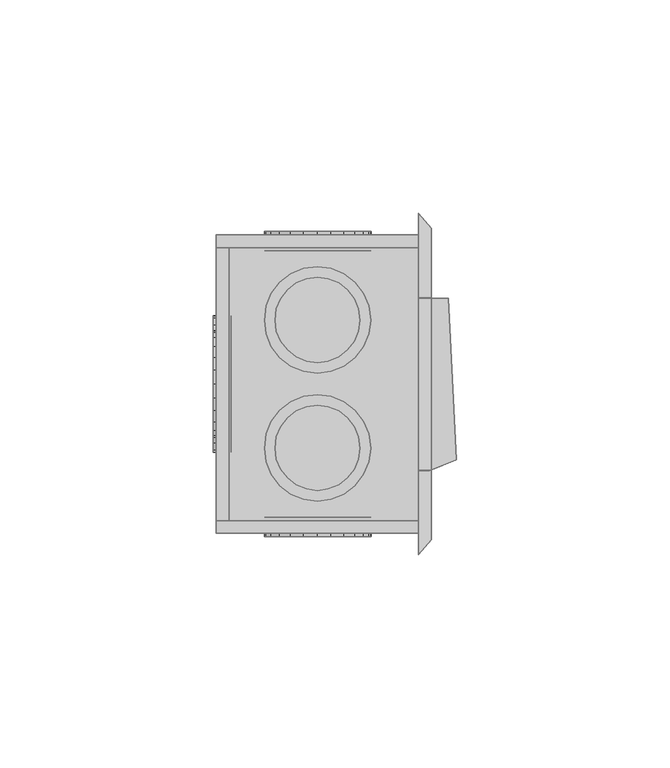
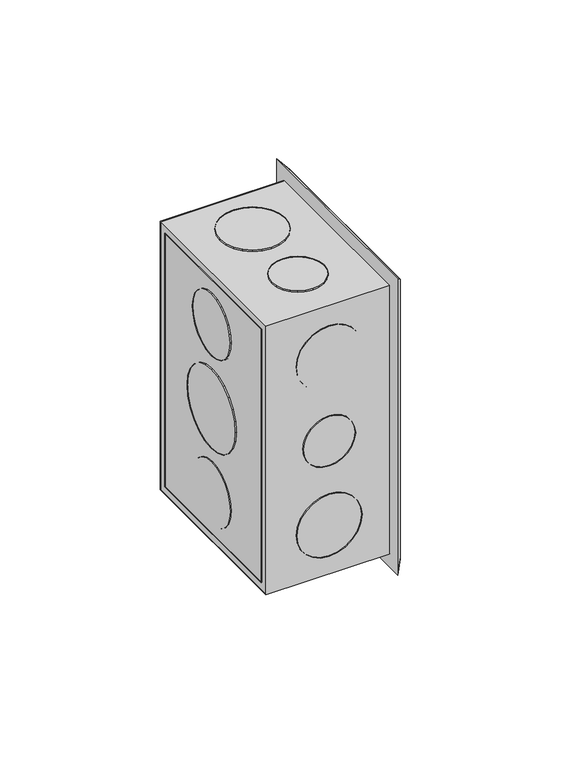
"""IFC4 building model written with IfcOpenShell, lengths in millimetres: proxy geometry,  211125 :  211125."""

from ifc_helpers import new_model, si_unit, origin, place, context, project, spatial, triangles, source, transform, mapped, element, save


def generic_models_154e31d0(model_context):
    return source(origin(), model_context, "Body", "Tessellation", [
        triangles([(19003.4005188, 12791.7994354, 1254.3000378), (19003.4005188, 12788.7996185, 1148.7000154), (19003.4005188, 12791.7994354, 1145.6999805), (19003.4005188, 12788.7996185, 1251.2999302), (19003.4005188, 12721.8002197, 1254.3000378), (19003.4005188, 12724.8000366, 1251.2999302), (19003.4005188, 12721.8002197, 1145.6999805), (19003.4005188, 12724.8000366, 1148.7000154), (18955.8999298, 12788.7996185, 1251.2999302), (18955.8999298, 12788.7996185, 1148.7000154), (18955.8999298, 12721.8002197, 1254.3000378), (18955.8999298, 12721.8002197, 1145.6999805), (18955.8999298, 12724.8000366, 1251.2999302), (18955.8999298, 12791.7994354, 1145.6999805), (18955.8999298, 12724.8000366, 1148.7000154), (18955.8999298, 12791.7994354, 1254.3000378), (18958.8997467, 12788.7996185, 1251.2999302), (18958.8997467, 12724.8000366, 1148.7000154), (18958.8997467, 12788.7996185, 1148.7000154), (18958.8997467, 12724.8000366, 1251.2999302), (18959.3997162, 12770.6995605, 1191.9999887), (18959.3997162, 12764.7999207, 1186.0999855), (18959.3997162, 12768.0997192, 1188.6999722), (18959.3997162, 12772.2994629, 1195.8999687), (18959.3997162, 12761.0001526, 1184.5000105), (18959.3997162, 12772.7994324, 1200.0000092), (18959.3997162, 12756.8004089, 1183.9999683), (18959.3997162, 12772.2994629, 1204.0999769), (18959.3997162, 12752.6994965, 1184.5000105), (18959.3997162, 12770.6995605, 1208.0000296), (18959.3997162, 12748.7997345, 1186.0999855), (18959.3997162, 12768.0997192, 1211.2999735), (18959.3997162, 12745.4999359, 1188.6999722), (18959.3997162, 12764.7999207, 1213.9000328), (18959.3997162, 12743.0000885, 1191.9999887), (18959.3997162, 12761.0001526, 1215.5000078), (18959.3997162, 12741.4001862, 1195.8999687), (18959.3997162, 12756.8004089, 1215.9999773), (18959.3997162, 12740.8002228, 1200.0000092), (18959.3997162, 12752.6994965, 1215.5000078), (18959.3997162, 12741.4001862, 1204.0999769), (18959.3997162, 12748.7997345, 1213.9000328), (18959.3997162, 12743.0000885, 1208.0000296), (18959.3997162, 12745.4999359, 1211.2999735), (18955.1999725, 12752.6994965, 1184.5000105), (18955.1999725, 12756.8004089, 1183.9999683), (18955.1999725, 12761.0001526, 1184.5000105), (18955.1999725, 12764.7999207, 1186.0999855), (18955.1999725, 12768.0997192, 1188.6999722), (18955.1999725, 12770.6995605, 1191.9999887), (18955.1999725, 12772.2994629, 1195.8999687), (18955.1999725, 12772.7994324, 1200.0000092), (18955.1999725, 12772.2994629, 1204.0999769), (18955.1999725, 12770.6995605, 1208.0000296), (18955.1999725, 12768.0997192, 1211.2999735), (18955.1999725, 12764.7999207, 1213.9000328), (18955.1999725, 12761.0001526, 1215.5000078), (18955.1999725, 12756.8004089, 1215.9999773), (18955.1999725, 12752.6994965, 1215.5000078), (18955.1999725, 12748.7997345, 1213.9000328), (18955.1999725, 12745.4999359, 1211.2999735), (18955.1999725, 12743.0000885, 1208.0000296), (18955.1999725, 12741.4001862, 1204.0999769), (18955.1999725, 12740.8002228, 1200.0000092), (18955.1999725, 12741.4001862, 1195.8999687), (18955.1999725, 12743.0000885, 1191.9999887), (18955.1999725, 12745.4999359, 1188.6999722), (18955.1999725, 12748.7997345, 1186.0999855), (18959.3997162, 12767.6997437, 1227.8000565), (18959.3997162, 12763.1000244, 1223.2000465), (18959.3997162, 12765.6998657, 1225.2000698), (18959.3997162, 12768.8996704, 1230.8000187), (18959.3997162, 12760.1002075, 1221.8999805), (18959.3997162, 12769.299646, 1233.9999687), (18959.3997162, 12756.8004089, 1221.500005), (18959.3997162, 12768.8996704, 1237.2000641), (18959.3997162, 12753.5994415, 1221.8999805), (18959.3997162, 12767.6997437, 1240.3000202), (18959.3997162, 12750.5996246, 1223.2000465), (18959.3997162, 12765.6998657, 1242.800013), (18959.3997162, 12747.9997833, 1225.2000698), (18959.3997162, 12745.9999054, 1227.8000565), (18959.3997162, 12763.1000244, 1244.8000362), (18959.3997162, 12760.1002075, 1246.0999569), (18959.3997162, 12744.7999786, 1230.8000187), (18959.3997162, 12756.8004089, 1246.4999325), (18959.3997162, 12744.3000092, 1233.9999687), (18959.3997162, 12753.5994415, 1246.0999569), (18959.3997162, 12744.7999786, 1237.2000641), (18959.3997162, 12745.9999054, 1240.3000202), (18959.3997162, 12750.5996246, 1244.8000362), (18959.3997162, 12747.9997833, 1242.800013), (18955.1999725, 12744.7999786, 1230.8000187), (18955.1999725, 12745.9999054, 1227.8000565), (18955.1999725, 12747.9997833, 1225.2000698), (18955.1999725, 12750.5996246, 1223.2000465), (18955.1999725, 12753.5994415, 1221.8999805), (18955.1999725, 12756.8004089, 1221.500005), (18955.1999725, 12760.1002075, 1221.8999805), (18955.1999725, 12763.1000244, 1223.2000465), (18955.1999725, 12765.6998657, 1225.2000698), (18955.1999725, 12767.6997437, 1227.8000565), (18955.1999725, 12768.8996704, 1230.8000187), (18955.1999725, 12769.299646, 1233.9999687), (18955.1999725, 12768.8996704, 1237.2000641), (18955.1999725, 12767.6997437, 1240.3000202), (18955.1999725, 12765.6998657, 1242.800013), (18955.1999725, 12763.1000244, 1244.8000362), (18955.1999725, 12760.1002075, 1246.0999569), (18955.1999725, 12756.8004089, 1246.4999325), (18955.1999725, 12753.5994415, 1246.0999569), (18955.1999725, 12750.5996246, 1244.8000362), (18955.1999725, 12747.9997833, 1242.800013), (18955.1999725, 12745.9999054, 1240.3000202), (18955.1999725, 12744.7999786, 1237.2000641), (18955.1999725, 12744.3000092, 1233.9999687), (18955.1999725, 12763.1000244, 1155.1999821), (18955.1999725, 12767.6997437, 1159.6999981), (18955.1999725, 12765.6998657, 1157.2000053), (18955.1999725, 12760.1002075, 1153.8999887), (18955.1999725, 12768.8996704, 1162.8000269), (18955.1999725, 12756.8004089, 1153.5000132), (18955.1999725, 12769.299646, 1165.9999769), (18955.1999725, 12753.5994415, 1153.8999887), (18955.1999725, 12768.8996704, 1169.1999996), (18955.1999725, 12750.5996246, 1155.1999821), (18955.1999725, 12767.6997437, 1172.2000345), (18955.1999725, 12747.9997833, 1157.2000053), (18955.1999725, 12765.6998657, 1174.8000212), (18955.1999725, 12745.9999054, 1159.6999981), (18955.1999725, 12763.1000244, 1176.7999718), (18955.1999725, 12744.7999786, 1162.8000269), (18955.1999725, 12760.1002075, 1178.0999651), (18955.1999725, 12756.8004089, 1178.5000134), (18955.1999725, 12744.3000092, 1165.9999769), (18955.1999725, 12744.7999786, 1169.1999996), (18955.1999725, 12753.5994415, 1178.0999651), (18955.1999725, 12745.9999054, 1172.2000345), (18955.1999725, 12750.5996246, 1176.7999718), (18955.1999725, 12747.9997833, 1174.8000212), (18959.3997162, 12760.1002075, 1178.0999651), (18959.3997162, 12756.8004089, 1178.5000134), (18959.3997162, 12763.1000244, 1176.7999718), (18959.3997162, 12765.6998657, 1174.8000212), (18959.3997162, 12767.6997437, 1172.2000345), (18959.3997162, 12768.8996704, 1169.1999996), (18959.3997162, 12769.299646, 1165.9999769), (18959.3997162, 12768.8996704, 1162.8000269), (18959.3997162, 12767.6997437, 1159.6999981), (18959.3997162, 12765.6998657, 1157.2000053), (18959.3997162, 12763.1000244, 1155.1999821), (18959.3997162, 12760.1002075, 1153.8999887), (18959.3997162, 12756.8004089, 1153.5000132), (18959.3997162, 12753.5994415, 1153.8999887), (18959.3997162, 12750.5996246, 1155.1999821), (18959.3997162, 12747.9997833, 1157.2000053), (18959.3997162, 12745.9999054, 1159.6999981), (18959.3997162, 12744.7999786, 1162.8000269), (18959.3997162, 12744.3000092, 1165.9999769), (18959.3997162, 12744.7999786, 1169.1999996), (18959.3997162, 12745.9999054, 1172.2000345), (18959.3997162, 12747.9997833, 1174.8000212), (18959.3997162, 12750.5996246, 1176.7999718), (18959.3997162, 12753.5994415, 1178.0999651), (18974.6999451, 12787.9996674, 1191.3000315), (18971.0001709, 12787.9996674, 1195.0000237), (18972.6000732, 12787.9996674, 1192.9000065), (18970.0002319, 12787.9996674, 1197.4000225), (18977.0997986, 12787.9996674, 1190.3000198), (18969.7002502, 12787.9996674, 1200.0000092), (18979.6996399, 12787.9996674, 1189.9999655), (18982.1994873, 12787.9996674, 1190.3000198), (18970.0002319, 12787.9996674, 1202.5999958), (18971.0001709, 12787.9996674, 1204.9999947), (18984.7004974, 12787.9996674, 1191.3000315), (18972.6000732, 12787.9996674, 1207.1000118), (18986.7003754, 12787.9996674, 1192.9000065), (18988.3002777, 12787.9996674, 1195.0000237), (18974.6999451, 12787.9996674, 1208.6999868), (18989.3002167, 12787.9996674, 1197.4000225), (18977.0997986, 12787.9996674, 1209.6999985), (18989.7001923, 12787.9996674, 1200.0000092), (18979.6996399, 12787.9996674, 1209.9999802), (18989.3002167, 12787.9996674, 1202.5999958), (18982.1994873, 12787.9996674, 1209.6999985), (18984.7004974, 12787.9996674, 1208.6999868), (18988.3002777, 12787.9996674, 1204.9999947), (18986.7003754, 12787.9996674, 1207.1000118), (18979.6996399, 12792.6005493, 1189.9999655), (18977.0997986, 12792.6005493, 1190.3000198), (18982.1994873, 12792.6005493, 1190.3000198), (18984.7004974, 12792.6005493, 1191.3000315), (18986.7003754, 12792.6005493, 1192.9000065), (18988.3002777, 12792.6005493, 1195.0000237), (18989.3002167, 12792.6005493, 1197.4000225), (18989.7001923, 12792.6005493, 1200.0000092), (18989.3002167, 12792.6005493, 1202.5999958), (18988.3002777, 12792.6005493, 1204.9999947), (18986.7003754, 12792.6005493, 1207.1000118), (18984.7004974, 12792.6005493, 1208.6999868), (18982.1994873, 12792.6005493, 1209.6999985), (18979.6996399, 12792.6005493, 1209.9999802), (18977.0997986, 12792.6005493, 1209.6999985), (18974.6999451, 12792.6005493, 1208.6999868), (18972.6000732, 12792.6005493, 1207.1000118), (18971.0001709, 12792.6005493, 1204.9999947), (18970.0002319, 12792.6005493, 1202.5999958), (18969.7002502, 12792.6005493, 1200.0000092), (18970.0002319, 12792.6005493, 1197.4000225), (18971.0001709, 12792.6005493, 1195.0000237), (18972.6000732, 12792.6005493, 1192.9000065), (18974.6999451, 12792.6005493, 1191.3000315), (18973.4000244, 12787.9996674, 1223.2000465), (18968.8003052, 12787.9996674, 1227.8000565), (18970.8001831, 12787.9996674, 1225.2000698), (18976.3998413, 12787.9996674, 1221.8999805), (18967.6003784, 12787.9996674, 1230.8000187), (18967.2004028, 12787.9996674, 1233.9999687), (18979.6996399, 12787.9996674, 1221.500005), (18982.8994446, 12787.9996674, 1221.8999805), (18967.6003784, 12787.9996674, 1237.2000641), (18968.8003052, 12787.9996674, 1240.3000202), (18985.9004242, 12787.9996674, 1223.2000465), (18988.5002655, 12787.9996674, 1225.2000698), (18970.8001831, 12787.9996674, 1242.800013), (18990.5001434, 12787.9996674, 1227.8000565), (18973.4000244, 12787.9996674, 1244.8000362), (18991.7000702, 12787.9996674, 1230.8000187), (18976.3998413, 12787.9996674, 1246.0999569), (18992.2000397, 12787.9996674, 1233.9999687), (18979.6996399, 12787.9996674, 1246.4999325), (18991.7000702, 12787.9996674, 1237.2000641), (18982.8994446, 12787.9996674, 1246.0999569), (18990.5001434, 12787.9996674, 1240.3000202), (18985.9004242, 12787.9996674, 1244.8000362), (18988.5002655, 12787.9996674, 1242.800013), (18979.6996399, 12792.6005493, 1221.500005), (18976.3998413, 12792.6005493, 1221.8999805), (18982.8994446, 12792.6005493, 1221.8999805), (18985.9004242, 12792.6005493, 1223.2000465), (18988.5002655, 12792.6005493, 1225.2000698), (18990.5001434, 12792.6005493, 1227.8000565), (18991.7000702, 12792.6005493, 1230.8000187), (18992.2000397, 12792.6005493, 1233.9999687), (18991.7000702, 12792.6005493, 1237.2000641), (18990.5001434, 12792.6005493, 1240.3000202), (18988.5002655, 12792.6005493, 1242.800013), (18985.9004242, 12792.6005493, 1244.8000362), (18982.8994446, 12792.6005493, 1246.0999569), (18979.6996399, 12792.6005493, 1246.4999325), (18976.3998413, 12792.6005493, 1246.0999569), (18973.4000244, 12792.6005493, 1244.8000362), (18970.8001831, 12792.6005493, 1242.800013), (18968.8003052, 12792.6005493, 1240.3000202), (18967.6003784, 12792.6005493, 1237.2000641), (18967.2004028, 12792.6005493, 1233.9999687), (18967.6003784, 12792.6005493, 1230.8000187), (18968.8003052, 12792.6005493, 1227.8000565), (18970.8001831, 12792.6005493, 1225.2000698), (18973.4000244, 12792.6005493, 1223.2000465), (18968.8003052, 12792.6005493, 1159.6999981), (18973.4000244, 12792.6005493, 1155.1999821), (18970.8001831, 12792.6005493, 1157.2000053), (18967.6003784, 12792.6005493, 1162.8000269), (18976.3998413, 12792.6005493, 1153.8999887), (18967.2004028, 12792.6005493, 1165.9999769), (18979.6996399, 12792.6005493, 1153.5000132), (18967.6003784, 12792.6005493, 1169.1999996), (18982.8994446, 12792.6005493, 1153.8999887), (18968.8003052, 12792.6005493, 1172.2000345), (18985.9004242, 12792.6005493, 1155.1999821), (18970.8001831, 12792.6005493, 1174.8000212), (18988.5002655, 12792.6005493, 1157.2000053), (18973.4000244, 12792.6005493, 1176.7999718), (18990.5001434, 12792.6005493, 1159.6999981), (18976.3998413, 12792.6005493, 1178.0999651), (18991.7000702, 12792.6005493, 1162.8000269), (18979.6996399, 12792.6005493, 1178.5000134), (18992.2000397, 12792.6005493, 1165.9999769), (18982.8994446, 12792.6005493, 1178.0999651), (18991.7000702, 12792.6005493, 1169.1999996), (18985.9004242, 12792.6005493, 1176.7999718), (18990.5001434, 12792.6005493, 1172.2000345), (18988.5002655, 12792.6005493, 1174.8000212), (18976.3998413, 12787.9996674, 1178.0999651), (18979.6996399, 12787.9996674, 1178.5000134), (18982.8994446, 12787.9996674, 1178.0999651), (18985.9004242, 12787.9996674, 1176.7999718), (18988.5002655, 12787.9996674, 1174.8000212), (18990.5001434, 12787.9996674, 1172.2000345), (18991.7000702, 12787.9996674, 1169.1999996), (18992.2000397, 12787.9996674, 1165.9999769), (18991.7000702, 12787.9996674, 1162.8000269), (18990.5001434, 12787.9996674, 1159.6999981), (18988.5002655, 12787.9996674, 1157.2000053), (18985.9004242, 12787.9996674, 1155.1999821), (18982.8994446, 12787.9996674, 1153.8999887), (18979.6996399, 12787.9996674, 1153.5000132), (18976.3998413, 12787.9996674, 1153.8999887), (18973.4000244, 12787.9996674, 1155.1999821), (18970.8001831, 12787.9996674, 1157.2000053), (18968.8003052, 12787.9996674, 1159.6999981), (18967.6003784, 12787.9996674, 1162.8000269), (18967.2004028, 12787.9996674, 1165.9999769), (18967.6003784, 12787.9996674, 1169.1999996), (18968.8003052, 12787.9996674, 1172.2000345), (18970.8001831, 12787.9996674, 1174.8000212), (18973.4000244, 12787.9996674, 1176.7999718), (18971.0001709, 12725.5999878, 1195.0000237), (18974.6999451, 12725.5999878, 1191.3000315), (18972.6000732, 12725.5999878, 1192.9000065), (18970.0002319, 12725.5999878, 1197.4000225), (18977.0997986, 12725.5999878, 1190.3000198), (18969.7002502, 12725.5999878, 1200.0000092), (18979.6996399, 12725.5999878, 1189.9999655), (18970.0002319, 12725.5999878, 1202.5999958), (18982.1994873, 12725.5999878, 1190.3000198), (18971.0001709, 12725.5999878, 1204.9999947), (18984.7004974, 12725.5999878, 1191.3000315), (18972.6000732, 12725.5999878, 1207.1000118), (18986.7003754, 12725.5999878, 1192.9000065), (18974.6999451, 12725.5999878, 1208.6999868), (18988.3002777, 12725.5999878, 1195.0000237), (18977.0997986, 12725.5999878, 1209.6999985), (18989.3002167, 12725.5999878, 1197.4000225), (18989.7001923, 12725.5999878, 1200.0000092), (18979.6996399, 12725.5999878, 1209.9999802), (18982.1994873, 12725.5999878, 1209.6999985), (18989.3002167, 12725.5999878, 1202.5999958), (18984.7004974, 12725.5999878, 1208.6999868), (18988.3002777, 12725.5999878, 1204.9999947), (18986.7003754, 12725.5999878, 1207.1000118), (18977.0997986, 12721.0002686, 1209.6999985), (18979.6996399, 12721.0002686, 1209.9999802), (18982.1994873, 12721.0002686, 1209.6999985), (18984.7004974, 12721.0002686, 1208.6999868), (18986.7003754, 12721.0002686, 1207.1000118), (18988.3002777, 12721.0002686, 1204.9999947), (18989.3002167, 12721.0002686, 1202.5999958), (18989.7001923, 12721.0002686, 1200.0000092), (18989.3002167, 12721.0002686, 1197.4000225), (18988.3002777, 12721.0002686, 1195.0000237), (18986.7003754, 12721.0002686, 1192.9000065), (18984.7004974, 12721.0002686, 1191.3000315), (18982.1994873, 12721.0002686, 1190.3000198), (18979.6996399, 12721.0002686, 1189.9999655), (18977.0997986, 12721.0002686, 1190.3000198), (18974.6999451, 12721.0002686, 1191.3000315), (18972.6000732, 12721.0002686, 1192.9000065), (18971.0001709, 12721.0002686, 1195.0000237), (18970.0002319, 12721.0002686, 1197.4000225), (18969.7002502, 12721.0002686, 1200.0000092), (18970.0002319, 12721.0002686, 1202.5999958), (18971.0001709, 12721.0002686, 1204.9999947), (18972.6000732, 12721.0002686, 1207.1000118), (18974.6999451, 12721.0002686, 1208.6999868), (18968.8003052, 12725.5999878, 1159.6999981), (18973.4000244, 12725.5999878, 1155.1999821), (18970.8001831, 12725.5999878, 1157.2000053), (18967.6003784, 12725.5999878, 1162.8000269), (18976.3998413, 12725.5999878, 1153.8999887), (18967.2004028, 12725.5999878, 1165.9999769), (18979.6996399, 12725.5999878, 1153.5000132), (18967.6003784, 12725.5999878, 1169.1999996), (18982.8994446, 12725.5999878, 1153.8999887), (18968.8003052, 12725.5999878, 1172.2000345), (18985.9004242, 12725.5999878, 1155.1999821), (18970.8001831, 12725.5999878, 1174.8000212), (18988.5002655, 12725.5999878, 1157.2000053), (18973.4000244, 12725.5999878, 1176.7999718), (18990.5001434, 12725.5999878, 1159.6999981), (18976.3998413, 12725.5999878, 1178.0999651), (18991.7000702, 12725.5999878, 1162.8000269), (18979.6996399, 12725.5999878, 1178.5000134), (18992.2000397, 12725.5999878, 1165.9999769), (18982.8994446, 12725.5999878, 1178.0999651), (18991.7000702, 12725.5999878, 1169.1999996), (18985.9004242, 12725.5999878, 1176.7999718), (18990.5001434, 12725.5999878, 1172.2000345), (18988.5002655, 12725.5999878, 1174.8000212), (18976.3998413, 12721.0002686, 1178.0999651), (18979.6996399, 12721.0002686, 1178.5000134), (18982.8994446, 12721.0002686, 1178.0999651), (18985.9004242, 12721.0002686, 1176.7999718), (18988.5002655, 12721.0002686, 1174.8000212), (18990.5001434, 12721.0002686, 1172.2000345), (18991.7000702, 12721.0002686, 1169.1999996), (18992.2000397, 12721.0002686, 1165.9999769), (18991.7000702, 12721.0002686, 1162.8000269), (18990.5001434, 12721.0002686, 1159.6999981), (18988.5002655, 12721.0002686, 1157.2000053), (18985.9004242, 12721.0002686, 1155.1999821), (18982.8994446, 12721.0002686, 1153.8999887), (18979.6996399, 12721.0002686, 1153.5000132), (18976.3998413, 12721.0002686, 1153.8999887), (18973.4000244, 12721.0002686, 1155.1999821), (18970.8001831, 12721.0002686, 1157.2000053), (18968.8003052, 12721.0002686, 1159.6999981), (18967.6003784, 12721.0002686, 1162.8000269), (18967.2004028, 12721.0002686, 1165.9999769), (18967.6003784, 12721.0002686, 1169.1999996), (18968.8003052, 12721.0002686, 1172.2000345), (18970.8001831, 12721.0002686, 1174.8000212), (18973.4000244, 12721.0002686, 1176.7999718), (18973.4000244, 12721.0002686, 1223.2000465), (18968.8003052, 12721.0002686, 1227.8000565), (18970.8001831, 12721.0002686, 1225.2000698), (18976.3998413, 12721.0002686, 1221.8999805), (18967.6003784, 12721.0002686, 1230.8000187), (18967.2004028, 12721.0002686, 1233.9999687), (18979.6996399, 12721.0002686, 1221.500005), (18982.8994446, 12721.0002686, 1221.8999805), (18967.6003784, 12721.0002686, 1237.2000641), (18968.8003052, 12721.0002686, 1240.3000202), (18985.9004242, 12721.0002686, 1223.2000465), (18988.5002655, 12721.0002686, 1225.2000698), (18970.8001831, 12721.0002686, 1242.800013), (18990.5001434, 12721.0002686, 1227.8000565), (18973.4000244, 12721.0002686, 1244.8000362), (18991.7000702, 12721.0002686, 1230.8000187), (18976.3998413, 12721.0002686, 1246.0999569), (18992.2000397, 12721.0002686, 1233.9999687), (18979.6996399, 12721.0002686, 1246.4999325), (18991.7000702, 12721.0002686, 1237.2000641), (18982.8994446, 12721.0002686, 1246.0999569), (18990.5001434, 12721.0002686, 1240.3000202), (18985.9004242, 12721.0002686, 1244.8000362), (18988.5002655, 12721.0002686, 1242.800013), (18979.6996399, 12725.5999878, 1221.500005), (18976.3998413, 12725.5999878, 1221.8999805), (18982.8994446, 12725.5999878, 1221.8999805), (18985.9004242, 12725.5999878, 1223.2000465), (18988.5002655, 12725.5999878, 1225.2000698), (18990.5001434, 12725.5999878, 1227.8000565), (18991.7000702, 12725.5999878, 1230.8000187), (18992.2000397, 12725.5999878, 1233.9999687), (18991.7000702, 12725.5999878, 1237.2000641), (18990.5001434, 12725.5999878, 1240.3000202), (18988.5002655, 12725.5999878, 1242.800013), (18985.9004242, 12725.5999878, 1244.8000362), (18982.8994446, 12725.5999878, 1246.0999569), (18979.6996399, 12725.5999878, 1246.4999325), (18976.3998413, 12725.5999878, 1246.0999569), (18973.4000244, 12725.5999878, 1244.8000362), (18970.8001831, 12725.5999878, 1242.800013), (18968.8003052, 12725.5999878, 1240.3000202), (18967.6003784, 12725.5999878, 1237.2000641), (18967.2004028, 12725.5999878, 1233.9999687), (18967.6003784, 12725.5999878, 1230.8000187), (18968.8003052, 12725.5999878, 1227.8000565), (18970.8001831, 12725.5999878, 1225.2000698), (18973.4000244, 12725.5999878, 1223.2000465), (18973.4000244, 12782.6999908, 1250.9999485), (18968.8003052, 12778.1002716, 1250.9999485), (18970.8001831, 12780.7001129, 1250.9999485), (18976.3998413, 12783.8999176, 1250.9999485), (18967.6003784, 12775.1004547, 1250.9999485), (18967.2004028, 12771.7994934, 1250.9999485), (18979.6996399, 12784.2998932, 1250.9999485), (18982.8994446, 12783.8999176, 1250.9999485), (18967.6003784, 12768.5996887, 1250.9999485), (18968.8003052, 12765.5998718, 1250.9999485), (18985.9004242, 12782.6999908, 1250.9999485), (18988.5002655, 12780.7001129, 1250.9999485), (18970.8001831, 12763.0000305, 1250.9999485), (18973.4000244, 12761.0001526, 1250.9999485), (18990.5001434, 12778.1002716, 1250.9999485), (18991.7000702, 12775.1004547, 1250.9999485), (18976.3998413, 12759.8002258, 1250.9999485), (18992.2000397, 12771.7994934, 1250.9999485), (18979.6996399, 12759.3002563, 1250.9999485), (18991.7000702, 12768.5996887, 1250.9999485), (18982.8994446, 12759.8002258, 1250.9999485), (18985.9004242, 12761.0001526, 1250.9999485), (18990.5001434, 12765.5998718, 1250.9999485), (18988.5002655, 12763.0000305, 1250.9999485), (18967.2004028, 12771.7994934, 1255.1999828), (18967.6003784, 12768.5996887, 1255.1999828), (18967.6003784, 12775.1004547, 1255.1999828), (18968.8003052, 12778.1002716, 1255.1999828), (18970.8001831, 12780.7001129, 1255.1999828), (18973.4000244, 12782.6999908, 1255.1999828), (18976.3998413, 12783.8999176, 1255.1999828), (18979.6996399, 12784.2998932, 1255.1999828), (18982.8994446, 12783.8999176, 1255.1999828), (18985.9004242, 12782.6999908, 1255.1999828), (18988.5002655, 12780.7001129, 1255.1999828), (18990.5001434, 12778.1002716, 1255.1999828), (18991.7000702, 12775.1004547, 1255.1999828), (18992.2000397, 12771.7994934, 1255.1999828), (18991.7000702, 12768.5996887, 1255.1999828), (18990.5001434, 12765.5998718, 1255.1999828), (18988.5002655, 12763.0000305, 1255.1999828), (18985.9004242, 12761.0001526, 1255.1999828), (18982.8994446, 12759.8002258, 1255.1999828), (18979.6996399, 12759.3002563, 1255.1999828), (18976.3998413, 12759.8002258, 1255.1999828), (18973.4000244, 12761.0001526, 1255.1999828), (18970.8001831, 12763.0000305, 1255.1999828), (18968.8003052, 12765.5998718, 1255.1999828), (18974.6999451, 12750.4996307, 1250.9999485), (18971.0001709, 12746.7998566, 1250.9999485), (18972.6000732, 12748.8997284, 1250.9999485), (18970.0002319, 12744.4000031, 1250.9999485), (18977.0997986, 12751.4995697, 1250.9999485), (18969.7002502, 12741.8001617, 1250.9999485), (18979.6996399, 12751.7995514, 1250.9999485), (18982.1994873, 12751.4995697, 1250.9999485), (18970.0002319, 12739.2003204, 1250.9999485), (18971.0001709, 12736.8004669, 1250.9999485), (18984.7004974, 12750.4996307, 1250.9999485), (18972.6000732, 12734.7994263, 1250.9999485), (18986.7003754, 12748.8997284, 1250.9999485), (18988.3002777, 12746.7998566, 1250.9999485), (18974.6999451, 12733.1995239, 1250.9999485), (18977.0997986, 12732.199585, 1250.9999485), (18989.3002167, 12744.4000031, 1250.9999485), (18989.7001923, 12741.8001617, 1250.9999485), (18979.6996399, 12731.7996094, 1250.9999485), (18989.3002167, 12739.2003204, 1250.9999485), (18982.1994873, 12732.199585, 1250.9999485), (18988.3002777, 12736.8004669, 1250.9999485), (18984.7004974, 12733.1995239, 1250.9999485), (18986.7003754, 12734.7994263, 1250.9999485), (18970.0002319, 12739.2003204, 1255.1999828), (18971.0001709, 12736.8004669, 1255.1999828), (18969.7002502, 12741.8001617, 1255.1999828), (18970.0002319, 12744.4000031, 1255.1999828), (18971.0001709, 12746.7998566, 1255.1999828), (18972.6000732, 12748.8997284, 1255.1999828), (18974.6999451, 12750.4996307, 1255.1999828), (18977.0997986, 12751.4995697, 1255.1999828), (18979.6996399, 12751.7995514, 1255.1999828), (18982.1994873, 12751.4995697, 1255.1999828), (18984.7004974, 12750.4996307, 1255.1999828), (18986.7003754, 12748.8997284, 1255.1999828), (18988.3002777, 12746.7998566, 1255.1999828), (18989.3002167, 12744.4000031, 1255.1999828), (18989.7001923, 12741.8001617, 1255.1999828), (18989.3002167, 12739.2003204, 1255.1999828), (18988.3002777, 12736.8004669, 1255.1999828), (18986.7003754, 12734.7994263, 1255.1999828), (18984.7004974, 12733.1995239, 1255.1999828), (18982.1994873, 12732.199585, 1255.1999828), (18979.6996399, 12731.7996094, 1255.1999828), (18977.0997986, 12732.199585, 1255.1999828), (18974.6999451, 12733.1995239, 1255.1999828), (18972.6000732, 12734.7994263, 1255.1999828), (18974.6999451, 12780.5001251, 1144.8000355), (18971.0001709, 12776.800351, 1144.8000355), (18972.6000732, 12778.9002228, 1144.8000355), (18970.0002319, 12774.4004974, 1144.8000355), (18977.0997986, 12781.5000641, 1144.8000355), (18969.7002502, 12771.7994934, 1144.8000355), (18979.6996399, 12781.8000458, 1144.8000355), (18982.1994873, 12781.5000641, 1144.8000355), (18970.0002319, 12769.1996521, 1144.8000355), (18971.0001709, 12766.7997986, 1144.8000355), (18984.7004974, 12780.5001251, 1144.8000355), (18972.6000732, 12764.7999207, 1144.8000355), (18986.7003754, 12778.9002228, 1144.8000355), (18988.3002777, 12776.800351, 1144.8000355), (18974.6999451, 12763.2000183, 1144.8000355), (18977.0997986, 12762.2000793, 1144.8000355), (18989.3002167, 12774.4004974, 1144.8000355), (18989.7001923, 12771.7994934, 1144.8000355), (18979.6996399, 12761.8001038, 1144.8000355), (18989.3002167, 12769.1996521, 1144.8000355), (18982.1994873, 12762.2000793, 1144.8000355), (18988.3002777, 12766.7997986, 1144.8000355), (18984.7004974, 12763.2000183, 1144.8000355), (18986.7003754, 12764.7999207, 1144.8000355), (18970.0002319, 12774.4004974, 1149.099991), (18969.7002502, 12771.7994934, 1149.099991), (18971.0001709, 12776.800351, 1149.099991), (18972.6000732, 12778.9002228, 1149.099991), (18974.6999451, 12780.5001251, 1149.099991), (18977.0997986, 12781.5000641, 1149.099991), (18979.6996399, 12781.8000458, 1149.099991), (18982.1994873, 12781.5000641, 1149.099991), (18984.7004974, 12780.5001251, 1149.099991), (18986.7003754, 12778.9002228, 1149.099991), (18988.3002777, 12776.800351, 1149.099991), (18989.3002167, 12774.4004974, 1149.099991), (18989.7001923, 12771.7994934, 1149.099991), (18989.3002167, 12769.1996521, 1149.099991), (18988.3002777, 12766.7997986, 1149.099991), (18986.7003754, 12764.7999207, 1149.099991), (18984.7004974, 12763.2000183, 1149.099991), (18982.1994873, 12762.2000793, 1149.099991), (18979.6996399, 12761.8001038, 1149.099991), (18977.0997986, 12762.2000793, 1149.099991), (18974.6999451, 12763.2000183, 1149.099991), (18972.6000732, 12764.7999207, 1149.099991), (18971.0001709, 12766.7997986, 1149.099991), (18970.0002319, 12769.1996521, 1149.099991), (18973.4000244, 12752.6994965, 1144.8000355), (18968.8003052, 12748.0997772, 1144.8000355), (18970.8001831, 12750.6996185, 1144.8000355), (18976.3998413, 12753.8994232, 1144.8000355), (18967.6003784, 12745.0999603, 1144.8000355), (18967.2004028, 12741.8001617, 1144.8000355), (18979.6996399, 12754.3005615, 1144.8000355), (18982.8994446, 12753.8994232, 1144.8000355), (18967.6003784, 12738.6003571, 1144.8000355), (18968.8003052, 12735.6005402, 1144.8000355), (18985.9004242, 12752.6994965, 1144.8000355), (18988.5002655, 12750.6996185, 1144.8000355), (18970.8001831, 12732.9995361, 1144.8000355), (18973.4000244, 12730.9996582, 1144.8000355), (18990.5001434, 12748.0997772, 1144.8000355), (18991.7000702, 12745.0999603, 1144.8000355), (18976.3998413, 12729.7997314, 1144.8000355), (18992.2000397, 12741.8001617, 1144.8000355), (18979.6996399, 12729.299762, 1144.8000355), (18991.7000702, 12738.6003571, 1144.8000355), (18982.8994446, 12729.7997314, 1144.8000355), (18985.9004242, 12730.9996582, 1144.8000355), (18990.5001434, 12735.6005402, 1144.8000355), (18988.5002655, 12732.9995361, 1144.8000355), (18967.6003784, 12738.6003571, 1149.099991), (18968.8003052, 12735.6005402, 1149.099991), (18967.2004028, 12741.8001617, 1149.099991), (18967.6003784, 12745.0999603, 1149.099991), (18968.8003052, 12748.0997772, 1149.099991), (18970.8001831, 12750.6996185, 1149.099991), (18973.4000244, 12752.6994965, 1149.099991), (18976.3998413, 12753.8994232, 1149.099991), (18979.6996399, 12754.3005615, 1149.099991), (18982.8994446, 12753.8994232, 1149.099991), (18985.9004242, 12752.6994965, 1149.099991), (18988.5002655, 12750.6996185, 1149.099991), (18990.5001434, 12748.0997772, 1149.099991), (18991.7000702, 12745.0999603, 1149.099991), (18992.2000397, 12741.8001617, 1149.099991), (18991.7000702, 12738.6003571, 1149.099991), (18990.5001434, 12735.6005402, 1149.099991), (18988.5002655, 12732.9995361, 1149.099991), (18985.9004242, 12730.9996582, 1149.099991), (18982.8994446, 12729.7997314, 1149.099991), (18979.6996399, 12729.299762, 1149.099991), (18976.3998413, 12729.7997314, 1149.099991), (18973.4000244, 12730.9996582, 1149.099991), (18970.8001831, 12732.9995361, 1149.099991), (19003.4005188, 12716.8005249, 1139.9999651), (19003.4005188, 12777.0003387, 1188.2999966), (19003.4005188, 12796.800293, 1139.9999651), (19003.4005188, 12736.6004791, 1188.2999966), (19003.4005188, 12716.8005249, 1259.9999805), (19003.4005188, 12736.6004791, 1211.7000217), (19003.4005188, 12796.800293, 1259.9999805), (19003.4005188, 12777.0003387, 1211.7000217), (19006.4003357, 12736.6004791, 1188.2999966), (19006.4003357, 12736.6004791, 1211.7000217), (19006.4003357, 12777.0003387, 1188.2999966), (19006.4003357, 12777.0003387, 1211.7000217), (19006.4003357, 12793.3005066, 1143.4999695), (19006.4003357, 12793.3005066, 1256.5000488), (19006.4003357, 12720.3003113, 1143.4999695), (19006.4003357, 12720.3003113, 1256.5000488), (19010.4000916, 12776.9003448, 1188.1000088), (19003.4005188, 12736.5004852, 1188.1000088), (19003.4005188, 12776.9003448, 1188.1000088), (19012.2999756, 12739.1003265, 1188.1000088), (19005.9003662, 12736.5004852, 1188.1000088), (19003.4005188, 12776.9003448, 1211.500034), (19003.4005188, 12736.5004852, 1211.500034), (19010.4000916, 12776.9003448, 1211.500034), (19012.2999756, 12739.1003265, 1211.500034), (19005.9003662, 12736.5004852, 1211.500034)], [[1, 2, 3], [2, 1, 4], [5, 4, 1], [4, 5, 6], [3, 2, 7], [7, 2, 8], [7, 8, 6], [7, 6, 5], [2, 9, 10], [9, 2, 4], [7, 11, 12], [11, 7, 5], [4, 13, 9], [13, 4, 6], [3, 12, 14], [12, 3, 7], [13, 8, 15], [8, 13, 6], [16, 3, 14], [3, 16, 1], [15, 2, 10], [2, 15, 8], [11, 1, 16], [1, 11, 5], [12, 10, 14], [10, 12, 15], [11, 15, 12], [15, 11, 13], [14, 10, 16], [16, 10, 9], [16, 9, 13], [16, 13, 11], [17, 18, 19], [18, 17, 20], [18, 13, 15], [13, 18, 20], [19, 15, 10], [15, 19, 18], [9, 19, 10], [19, 9, 17], [13, 17, 9], [17, 13, 20], [15, 9, 10], [9, 15, 13], [21, 22, 23], [22, 21, 24], [25, 22, 24], [25, 24, 26], [27, 25, 26], [27, 26, 28], [29, 27, 28], [29, 28, 30], [31, 29, 30], [31, 30, 32], [31, 32, 33], [33, 32, 34], [33, 34, 35], [35, 34, 36], [35, 36, 37], [37, 36, 38], [37, 38, 39], [39, 38, 40], [39, 40, 41], [41, 40, 42], [41, 42, 43], [43, 42, 44], [27, 45, 46], [45, 27, 29], [25, 46, 47], [46, 25, 27], [22, 47, 48], [47, 22, 25], [23, 48, 49], [48, 23, 22], [50, 23, 49], [23, 50, 21], [51, 21, 50], [21, 51, 24], [52, 24, 51], [24, 52, 26], [53, 26, 52], [26, 53, 28], [54, 28, 53], [28, 54, 30], [55, 30, 54], [30, 55, 32], [56, 32, 55], [32, 56, 34], [57, 34, 56], [34, 57, 36], [58, 36, 57], [36, 58, 38], [59, 38, 58], [38, 59, 40], [60, 40, 59], [40, 60, 42], [61, 42, 60], [42, 61, 44], [43, 61, 62], [61, 43, 44], [41, 62, 63], [62, 41, 43], [39, 63, 64], [63, 39, 41], [37, 64, 65], [64, 37, 39], [35, 65, 66], [65, 35, 37], [33, 66, 67], [66, 33, 35], [31, 67, 68], [67, 31, 33], [29, 68, 45], [68, 29, 31], [48, 50, 49], [50, 48, 47], [51, 50, 47], [51, 47, 46], [52, 51, 46], [52, 46, 45], [53, 52, 45], [53, 45, 68], [54, 53, 68], [54, 68, 67], [54, 67, 55], [55, 67, 66], [55, 66, 56], [56, 66, 65], [56, 65, 57], [57, 65, 64], [57, 64, 58], [58, 64, 63], [58, 63, 59], [59, 63, 62], [59, 62, 60], [60, 62, 61], [69, 70, 71], [70, 69, 72], [73, 70, 72], [73, 72, 74], [75, 73, 74], [75, 74, 76], [77, 75, 76], [77, 76, 78], [79, 77, 78], [79, 78, 80], [81, 79, 80], [81, 80, 82], [82, 80, 83], [82, 83, 84], [82, 84, 85], [85, 84, 86], [85, 86, 87], [87, 86, 88], [87, 88, 89], [89, 88, 90], [90, 88, 91], [90, 91, 92], [82, 93, 94], [93, 82, 85], [81, 94, 95], [94, 81, 82], [79, 95, 96], [95, 79, 81], [77, 96, 97], [96, 77, 79], [75, 97, 98], [97, 75, 77], [73, 98, 99], [98, 73, 75], [70, 99, 100], [99, 70, 73], [71, 100, 101], [100, 71, 70], [102, 71, 101], [71, 102, 69], [103, 69, 102], [69, 103, 72], [104, 72, 103], [72, 104, 74], [105, 74, 104], [74, 105, 76], [106, 76, 105], [76, 106, 78], [107, 78, 106], [78, 107, 80], [108, 80, 107], [80, 108, 83], [109, 83, 108], [83, 109, 84], [110, 84, 109], [84, 110, 86], [111, 86, 110], [86, 111, 88], [112, 88, 111], [88, 112, 91], [113, 91, 112], [91, 113, 92], [90, 113, 114], [113, 90, 92], [89, 114, 115], [114, 89, 90], [87, 115, 116], [115, 87, 89], [85, 116, 93], [116, 85, 87], [100, 102, 101], [102, 100, 99], [103, 102, 99], [103, 99, 98], [104, 103, 98], [104, 98, 97], [105, 104, 97], [106, 105, 97], [106, 97, 96], [106, 96, 95], [106, 95, 107], [107, 95, 94], [107, 94, 108], [108, 94, 93], [108, 93, 109], [109, 93, 116], [109, 116, 110], [110, 116, 115], [110, 115, 111], [111, 115, 114], [111, 114, 112], [112, 114, 113], [117, 118, 119], [118, 117, 120], [121, 118, 120], [121, 120, 122], [123, 121, 122], [123, 122, 124], [125, 123, 124], [125, 124, 126], [127, 125, 126], [127, 126, 128], [127, 128, 129], [129, 128, 130], [129, 130, 131], [131, 130, 132], [131, 132, 133], [133, 132, 134], [134, 132, 135], [134, 135, 136], [134, 136, 137], [137, 136, 138], [137, 138, 139], [139, 138, 140], [134, 141, 133], [141, 134, 142], [133, 143, 131], [143, 133, 141], [131, 144, 129], [144, 131, 143], [129, 145, 127], [145, 129, 144], [127, 146, 125], [146, 127, 145], [125, 147, 123], [147, 125, 146], [123, 148, 121], [148, 123, 147], [121, 149, 118], [149, 121, 148], [118, 150, 119], [150, 118, 149], [150, 117, 119], [117, 150, 151], [151, 120, 117], [120, 151, 152], [152, 122, 120], [122, 152, 153], [153, 124, 122], [124, 153, 154], [154, 126, 124], [126, 154, 155], [155, 128, 126], [128, 155, 156], [156, 130, 128], [130, 156, 157], [157, 132, 130], [132, 157, 158], [158, 135, 132], [135, 158, 159], [159, 136, 135], [136, 159, 160], [160, 138, 136], [138, 160, 161], [161, 140, 138], [140, 161, 162], [140, 163, 139], [163, 140, 162], [139, 164, 137], [164, 139, 163], [137, 142, 134], [142, 137, 164], [149, 151, 150], [151, 149, 148], [152, 151, 148], [153, 152, 148], [153, 148, 147], [153, 147, 146], [154, 153, 146], [154, 146, 145], [155, 154, 145], [155, 145, 144], [156, 155, 144], [156, 144, 157], [157, 144, 143], [157, 143, 141], [157, 141, 158], [158, 141, 142], [158, 142, 159], [159, 142, 164], [159, 164, 160], [160, 164, 163], [160, 163, 161], [161, 163, 162], [165, 166, 167], [168, 166, 165], [168, 165, 169], [170, 168, 169], [170, 169, 171], [170, 171, 172], [173, 170, 172], [174, 173, 172], [174, 172, 175], [176, 174, 175], [176, 175, 177], [176, 177, 178], [176, 178, 179], [179, 178, 180], [179, 180, 181], [181, 180, 182], [181, 182, 183], [183, 182, 184], [183, 184, 185], [185, 184, 186], [186, 184, 187], [186, 187, 188], [189, 169, 190], [169, 189, 171], [191, 171, 189], [171, 191, 172], [192, 172, 191], [172, 192, 175], [193, 175, 192], [175, 193, 177], [194, 177, 193], [177, 194, 178], [195, 178, 194], [178, 195, 180], [196, 180, 195], [180, 196, 182], [197, 182, 196], [182, 197, 184], [198, 184, 197], [184, 198, 187], [199, 187, 198], [187, 199, 188], [186, 199, 200], [199, 186, 188], [185, 200, 201], [200, 185, 186], [183, 201, 202], [201, 183, 185], [181, 202, 203], [202, 181, 183], [179, 203, 204], [203, 179, 181], [176, 204, 205], [204, 176, 179], [174, 205, 206], [205, 174, 176], [173, 206, 207], [206, 173, 174], [170, 207, 208], [207, 170, 173], [168, 208, 209], [208, 168, 170], [166, 209, 210], [209, 166, 168], [167, 210, 211], [210, 167, 166], [212, 167, 211], [167, 212, 165], [190, 165, 212], [165, 190, 169], [210, 212, 211], [212, 210, 209], [190, 212, 209], [190, 209, 208], [189, 190, 208], [189, 208, 207], [191, 189, 207], [191, 207, 206], [192, 191, 206], [192, 206, 205], [192, 205, 193], [193, 205, 204], [193, 204, 194], [194, 204, 203], [194, 203, 195], [195, 203, 196], [196, 203, 202], [196, 202, 201], [196, 201, 197], [197, 201, 200], [197, 200, 198], [198, 200, 199], [213, 214, 215], [214, 213, 216], [217, 214, 216], [218, 217, 216], [218, 216, 219], [218, 219, 220], [221, 218, 220], [222, 221, 220], [222, 220, 223], [222, 223, 224], [222, 224, 225], [225, 224, 226], [225, 226, 227], [227, 226, 228], [227, 228, 229], [229, 228, 230], [229, 230, 231], [231, 230, 232], [231, 232, 233], [233, 232, 234], [233, 234, 235], [235, 234, 236], [237, 216, 238], [216, 237, 219], [239, 219, 237], [219, 239, 220], [240, 220, 239], [220, 240, 223], [241, 223, 240], [223, 241, 224], [242, 224, 241], [224, 242, 226], [243, 226, 242], [226, 243, 228], [244, 228, 243], [228, 244, 230], [245, 230, 244], [230, 245, 232], [246, 232, 245], [232, 246, 234], [247, 234, 246], [234, 247, 236], [235, 247, 248], [247, 235, 236], [233, 248, 249], [248, 233, 235], [231, 249, 250], [249, 231, 233], [229, 250, 251], [250, 229, 231], [227, 251, 252], [251, 227, 229], [225, 252, 253], [252, 225, 227], [222, 253, 254], [253, 222, 225], [221, 254, 255], [254, 221, 222], [218, 255, 256], [255, 218, 221], [217, 256, 257], [256, 217, 218], [214, 257, 258], [257, 214, 217], [215, 258, 259], [258, 215, 214], [260, 215, 259], [215, 260, 213], [238, 213, 260], [213, 238, 216], [258, 260, 259], [260, 258, 257], [238, 260, 257], [238, 257, 256], [237, 238, 256], [237, 256, 255], [239, 237, 255], [239, 255, 254], [240, 239, 254], [240, 254, 253], [241, 240, 253], [241, 253, 252], [241, 252, 242], [242, 252, 251], [242, 251, 243], [243, 251, 244], [244, 251, 250], [244, 250, 249], [244, 249, 245], [245, 249, 246], [246, 249, 248], [246, 248, 247], [261, 262, 263], [262, 261, 264], [265, 262, 264], [265, 264, 266], [267, 265, 266], [267, 266, 268], [269, 267, 268], [269, 268, 270], [271, 269, 270], [271, 270, 272], [273, 271, 272], [273, 272, 274], [273, 274, 275], [275, 274, 276], [275, 276, 277], [277, 276, 278], [277, 278, 279], [279, 278, 280], [279, 280, 281], [281, 280, 282], [281, 282, 283], [283, 282, 284], [285, 278, 276], [278, 285, 286], [286, 280, 278], [280, 286, 287], [287, 282, 280], [282, 287, 288], [288, 284, 282], [284, 288, 289], [284, 290, 283], [290, 284, 289], [283, 291, 281], [291, 283, 290], [281, 292, 279], [292, 281, 291], [279, 293, 277], [293, 279, 292], [277, 294, 275], [294, 277, 293], [275, 295, 273], [295, 275, 294], [273, 296, 271], [296, 273, 295], [271, 297, 269], [297, 271, 296], [269, 298, 267], [298, 269, 297], [267, 299, 265], [299, 267, 298], [265, 300, 262], [300, 265, 299], [262, 301, 263], [301, 262, 300], [301, 261, 263], [261, 301, 302], [302, 264, 261], [264, 302, 303], [303, 266, 264], [266, 303, 304], [304, 268, 266], [268, 304, 305], [305, 270, 268], [270, 305, 306], [306, 272, 270], [272, 306, 307], [307, 274, 272], [274, 307, 308], [308, 276, 274], [276, 308, 285], [300, 302, 301], [302, 300, 299], [303, 302, 299], [303, 299, 298], [304, 303, 298], [304, 298, 297], [305, 304, 297], [305, 297, 296], [306, 305, 296], [306, 296, 295], [306, 295, 307], [307, 295, 294], [307, 294, 308], [308, 294, 293], [308, 293, 285], [285, 293, 286], [286, 293, 292], [286, 292, 291], [286, 291, 287], [287, 291, 288], [288, 291, 290], [288, 290, 289], [309, 310, 311], [310, 309, 312], [313, 310, 312], [313, 312, 314], [315, 313, 314], [315, 314, 316], [317, 315, 316], [317, 316, 318], [319, 317, 318], [319, 318, 320], [319, 320, 321], [321, 320, 322], [321, 322, 323], [323, 322, 324], [323, 324, 325], [325, 324, 326], [326, 324, 327], [326, 327, 328], [326, 328, 329], [329, 328, 330], [329, 330, 331], [331, 330, 332], [333, 327, 324], [327, 333, 334], [334, 328, 327], [328, 334, 335], [335, 330, 328], [330, 335, 336], [336, 332, 330], [332, 336, 337], [332, 338, 331], [338, 332, 337], [331, 339, 329], [339, 331, 338], [329, 340, 326], [340, 329, 339], [326, 341, 325], [341, 326, 340], [325, 342, 323], [342, 325, 341], [323, 343, 321], [343, 323, 342], [321, 344, 319], [344, 321, 343], [319, 345, 317], [345, 319, 344], [317, 346, 315], [346, 317, 345], [315, 347, 313], [347, 315, 346], [313, 348, 310], [348, 313, 347], [310, 349, 311], [349, 310, 348], [349, 309, 311], [309, 349, 350], [350, 312, 309], [312, 350, 351], [351, 314, 312], [314, 351, 352], [352, 316, 314], [316, 352, 353], [353, 318, 316], [318, 353, 354], [354, 320, 318], [320, 354, 355], [355, 322, 320], [322, 355, 356], [356, 324, 322], [324, 356, 333], [348, 350, 349], [351, 350, 348], [351, 348, 347], [352, 351, 347], [352, 347, 346], [352, 346, 345], [353, 352, 345], [354, 353, 345], [354, 345, 344], [355, 354, 344], [355, 344, 343], [355, 343, 342], [355, 342, 356], [356, 342, 341], [356, 341, 333], [333, 341, 340], [333, 340, 334], [334, 340, 339], [334, 339, 335], [335, 339, 336], [336, 339, 338], [336, 338, 337], [357, 358, 359], [358, 357, 360], [361, 358, 360], [361, 360, 362], [363, 361, 362], [363, 362, 364], [365, 363, 364], [365, 364, 366], [367, 365, 366], [367, 366, 368], [369, 367, 368], [369, 368, 370], [369, 370, 371], [371, 370, 372], [371, 372, 373], [373, 372, 374], [373, 374, 375], [375, 374, 376], [375, 376, 377], [377, 376, 378], [377, 378, 379], [379, 378, 380], [381, 374, 372], [374, 381, 382], [382, 376, 374], [376, 382, 383], [383, 378, 376], [378, 383, 384], [384, 380, 378], [380, 384, 385], [380, 386, 379], [386, 380, 385], [379, 387, 377], [387, 379, 386], [377, 388, 375], [388, 377, 387], [375, 389, 373], [389, 375, 388], [373, 390, 371], [390, 373, 389], [371, 391, 369], [391, 371, 390], [369, 392, 367], [392, 369, 391], [367, 393, 365], [393, 367, 392], [365, 394, 363], [394, 365, 393], [363, 395, 361], [395, 363, 394], [361, 396, 358], [396, 361, 395], [358, 397, 359], [397, 358, 396], [397, 357, 359], [357, 397, 398], [398, 360, 357], [360, 398, 399], [399, 362, 360], [362, 399, 400], [400, 364, 362], [364, 400, 401], [401, 366, 364], [366, 401, 402], [402, 368, 366], [368, 402, 403], [403, 370, 368], [370, 403, 404], [404, 372, 370], [372, 404, 381], [396, 398, 397], [398, 396, 395], [399, 398, 395], [399, 395, 394], [400, 399, 394], [400, 394, 393], [401, 400, 393], [401, 393, 392], [402, 401, 392], [402, 392, 391], [402, 391, 403], [403, 391, 390], [403, 390, 404], [404, 390, 389], [404, 389, 381], [381, 389, 382], [382, 389, 388], [382, 388, 387], [382, 387, 383], [383, 387, 384], [384, 387, 386], [384, 386, 385], [405, 406, 407], [406, 405, 408], [409, 406, 408], [410, 409, 408], [410, 408, 411], [410, 411, 412], [413, 410, 412], [414, 413, 412], [414, 412, 415], [414, 415, 416], [414, 416, 417], [417, 416, 418], [417, 418, 419], [419, 418, 420], [419, 420, 421], [421, 420, 422], [421, 422, 423], [423, 422, 424], [423, 424, 425], [425, 424, 426], [425, 426, 427], [427, 426, 428], [429, 408, 430], [408, 429, 411], [431, 411, 429], [411, 431, 412], [432, 412, 431], [412, 432, 415], [433, 415, 432], [415, 433, 416], [434, 416, 433], [416, 434, 418], [435, 418, 434], [418, 435, 420], [436, 420, 435], [420, 436, 422], [437, 422, 436], [422, 437, 424], [438, 424, 437], [424, 438, 426], [439, 426, 438], [426, 439, 428], [427, 439, 440], [439, 427, 428], [425, 440, 441], [440, 425, 427], [423, 441, 442], [441, 423, 425], [421, 442, 443], [442, 421, 423], [419, 443, 444], [443, 419, 421], [417, 444, 445], [444, 417, 419], [414, 445, 446], [445, 414, 417], [413, 446, 447], [446, 413, 414], [410, 447, 448], [447, 410, 413], [409, 448, 449], [448, 409, 410], [406, 449, 450], [449, 406, 409], [407, 450, 451], [450, 407, 406], [452, 407, 451], [407, 452, 405], [430, 405, 452], [405, 430, 408], [450, 452, 451], [452, 450, 449], [430, 452, 449], [430, 449, 448], [429, 430, 448], [429, 448, 447], [431, 429, 447], [431, 447, 446], [432, 431, 446], [432, 446, 445], [433, 432, 445], [433, 445, 444], [433, 444, 434], [434, 444, 443], [434, 443, 435], [435, 443, 436], [436, 443, 442], [436, 442, 441], [436, 441, 437], [437, 441, 438], [438, 441, 440], [438, 440, 439], [453, 454, 455], [454, 453, 456], [457, 454, 456], [458, 457, 456], [458, 456, 459], [458, 459, 460], [461, 458, 460], [462, 461, 460], [462, 460, 463], [462, 463, 464], [462, 464, 465], [465, 464, 466], [466, 464, 467], [466, 467, 468], [466, 468, 469], [469, 468, 470], [469, 470, 471], [471, 470, 472], [471, 472, 473], [473, 472, 474], [474, 472, 475], [474, 475, 476], [461, 477, 458], [477, 461, 478], [458, 479, 457], [479, 458, 477], [457, 480, 454], [480, 457, 479], [454, 481, 455], [481, 454, 480], [481, 453, 455], [453, 481, 482], [482, 456, 453], [456, 482, 483], [483, 459, 456], [459, 483, 484], [484, 460, 459], [460, 484, 485], [485, 463, 460], [463, 485, 486], [486, 464, 463], [464, 486, 487], [487, 467, 464], [467, 487, 488], [488, 468, 467], [468, 488, 489], [489, 470, 468], [470, 489, 490], [490, 472, 470], [472, 490, 491], [491, 475, 472], [475, 491, 492], [492, 476, 475], [476, 492, 493], [476, 494, 474], [494, 476, 493], [474, 495, 473], [495, 474, 494], [473, 496, 471], [496, 473, 495], [471, 497, 469], [497, 471, 496], [469, 498, 466], [498, 469, 497], [466, 499, 465], [499, 466, 498], [465, 500, 462], [500, 465, 499], [462, 478, 461], [478, 462, 500], [480, 482, 481], [483, 482, 480], [483, 480, 479], [483, 479, 477], [484, 483, 477], [485, 484, 477], [485, 477, 478], [485, 478, 500], [486, 485, 500], [487, 486, 500], [487, 500, 499], [487, 499, 498], [487, 498, 488], [488, 498, 489], [489, 498, 497], [489, 497, 490], [490, 497, 496], [490, 496, 491], [491, 496, 495], [491, 495, 494], [491, 494, 492], [492, 494, 493], [501, 502, 503], [504, 502, 501], [504, 501, 505], [506, 504, 505], [506, 505, 507], [506, 507, 508], [509, 506, 508], [510, 509, 508], [510, 508, 511], [512, 510, 511], [512, 511, 513], [512, 513, 514], [512, 514, 515], [515, 514, 516], [516, 514, 517], [516, 517, 518], [516, 518, 519], [519, 518, 520], [519, 520, 521], [521, 520, 522], [521, 522, 523], [523, 522, 524], [510, 525, 509], [525, 510, 526], [509, 527, 506], [527, 509, 525], [506, 528, 504], [528, 506, 527], [504, 529, 502], [529, 504, 528], [502, 530, 503], [530, 502, 529], [530, 501, 503], [501, 530, 531], [531, 505, 501], [505, 531, 532], [532, 507, 505], [507, 532, 533], [533, 508, 507], [508, 533, 534], [534, 511, 508], [511, 534, 535], [535, 513, 511], [513, 535, 536], [536, 514, 513], [514, 536, 537], [537, 517, 514], [517, 537, 538], [538, 518, 517], [518, 538, 539], [539, 520, 518], [520, 539, 540], [540, 522, 520], [522, 540, 541], [541, 524, 522], [524, 541, 542], [524, 543, 523], [543, 524, 542], [523, 544, 521], [544, 523, 543], [521, 545, 519], [545, 521, 544], [519, 546, 516], [546, 519, 545], [516, 547, 515], [547, 516, 546], [515, 548, 512], [548, 515, 547], [512, 526, 510], [526, 512, 548], [529, 531, 530], [531, 529, 528], [532, 531, 528], [532, 528, 527], [533, 532, 527], [534, 533, 527], [534, 527, 525], [534, 525, 526], [535, 534, 526], [535, 526, 548], [535, 548, 536], [536, 548, 537], [537, 548, 547], [537, 547, 546], [537, 546, 538], [538, 546, 539], [539, 546, 545], [539, 545, 540], [540, 545, 544], [540, 544, 541], [541, 544, 543], [541, 543, 542], [549, 550, 551], [552, 550, 549], [552, 549, 553], [554, 552, 553], [554, 553, 555], [554, 555, 556], [557, 554, 556], [558, 557, 556], [558, 556, 559], [560, 558, 559], [560, 559, 561], [560, 561, 562], [560, 562, 563], [563, 562, 564], [564, 562, 565], [564, 565, 566], [564, 566, 567], [567, 566, 568], [567, 568, 569], [569, 568, 570], [569, 570, 571], [571, 570, 572], [554, 573, 552], [573, 554, 574], [552, 575, 550], [575, 552, 573], [550, 576, 551], [576, 550, 575], [576, 549, 551], [549, 576, 577], [577, 553, 549], [553, 577, 578], [578, 555, 553], [555, 578, 579], [579, 556, 555], [556, 579, 580], [580, 559, 556], [559, 580, 581], [581, 561, 559], [561, 581, 582], [582, 562, 561], [562, 582, 583], [583, 565, 562], [565, 583, 584], [584, 566, 565], [566, 584, 585], [585, 568, 566], [568, 585, 586], [586, 570, 568], [570, 586, 587], [587, 572, 570], [572, 587, 588], [572, 589, 571], [589, 572, 588], [571, 590, 569], [590, 571, 589], [569, 591, 567], [591, 569, 590], [567, 592, 564], [592, 567, 591], [564, 593, 563], [593, 564, 592], [563, 594, 560], [594, 563, 593], [560, 595, 558], [595, 560, 594], [558, 596, 557], [596, 558, 595], [557, 574, 554], [574, 557, 596], [575, 577, 576], [577, 575, 573], [578, 577, 573], [578, 573, 574], [579, 578, 574], [580, 579, 574], [580, 574, 596], [580, 596, 595], [581, 580, 595], [581, 595, 594], [581, 594, 582], [582, 594, 583], [583, 594, 593], [583, 593, 592], [583, 592, 584], [584, 592, 585], [585, 592, 591], [585, 591, 586], [586, 591, 590], [586, 590, 587], [587, 590, 589], [587, 589, 588], [597, 598, 599], [598, 597, 600], [601, 598, 600], [602, 601, 600], [602, 600, 603], [602, 603, 604], [605, 602, 604], [606, 605, 604], [606, 604, 607], [606, 607, 608], [606, 608, 609], [609, 608, 610], [610, 608, 611], [610, 611, 612], [610, 612, 613], [613, 612, 614], [613, 614, 615], [615, 614, 616], [615, 616, 617], [617, 616, 618], [618, 616, 619], [618, 619, 620], [606, 621, 605], [621, 606, 622], [605, 623, 602], [623, 605, 621], [602, 624, 601], [624, 602, 623], [601, 625, 598], [625, 601, 624], [598, 626, 599], [626, 598, 625], [626, 597, 599], [597, 626, 627], [627, 600, 597], [600, 627, 628], [628, 603, 600], [603, 628, 629], [629, 604, 603], [604, 629, 630], [630, 607, 604], [607, 630, 631], [631, 608, 607], [608, 631, 632], [632, 611, 608], [611, 632, 633], [633, 612, 611], [612, 633, 634], [634, 614, 612], [614, 634, 635], [635, 616, 614], [616, 635, 636], [636, 619, 616], [619, 636, 637], [637, 620, 619], [620, 637, 638], [620, 639, 618], [639, 620, 638], [618, 640, 617], [640, 618, 639], [617, 641, 615], [641, 617, 640], [615, 642, 613], [642, 615, 641], [613, 643, 610], [643, 613, 642], [610, 644, 609], [644, 610, 643], [609, 622, 606], [622, 609, 644], [625, 627, 626], [628, 627, 625], [628, 625, 624], [628, 624, 623], [629, 628, 623], [630, 629, 623], [630, 623, 621], [630, 621, 622], [631, 630, 622], [632, 631, 622], [632, 622, 644], [632, 644, 643], [632, 643, 633], [633, 643, 634], [634, 643, 642], [634, 642, 635], [635, 642, 641], [635, 641, 636], [636, 641, 640], [636, 640, 639], [636, 639, 637], [637, 639, 638], [645, 646, 647], [646, 645, 648], [649, 648, 645], [648, 649, 650], [647, 646, 651], [651, 646, 652], [651, 652, 650], [651, 650, 649], [650, 653, 648], [653, 650, 654], [648, 655, 646], [655, 648, 653], [655, 652, 646], [652, 655, 656], [656, 650, 652], [650, 656, 654], [651, 657, 647], [657, 651, 658], [647, 657, 645], [645, 657, 659], [660, 645, 659], [645, 660, 649], [651, 660, 658], [649, 660, 651], [658, 655, 657], [655, 658, 656], [654, 656, 658], [654, 658, 660], [655, 659, 657], [659, 655, 653], [659, 653, 660], [660, 653, 654], [661, 662, 663], [662, 661, 664], [662, 664, 665], [662, 666, 663], [666, 662, 667], [666, 661, 663], [661, 666, 668], [668, 664, 661], [664, 668, 669], [664, 670, 665], [670, 664, 669], [665, 667, 662], [667, 665, 670], [667, 668, 666], [668, 667, 669], [669, 667, 670]], closed=False),
    ])


if __name__ == "__main__":
    model = new_model("IFC4")
    model_context = context("Model", 3, world=origin())
    ifc_project = project(units=[si_unit("LENGTHUNIT", "METRE", prefix="MILLI")], contexts=[model_context])
    site = spatial("IfcSite", under=ifc_project)
    building = spatial("IfcBuilding", under=site)
    placement = place(None, origin())
    generic_models_shape = generic_models_154e31d0(model_context)
    element("IfcBuildingElementProxy", 1, Name=" 211125 :  211125", ObjectType=" 211125 :  211125", at=placement, inside=building, context=model_context, shape_type="MappedRepresentation", body=[
        mapped(generic_models_shape, transform((0.0, 0.0, 0.0), x_axis=(1.0, 0.0, 0.0), y_axis=(0.0, 1.0, 0.0), z_axis=(0.0, 0.0, 1.0))),
    ])
    save(model, "model.ifc")
